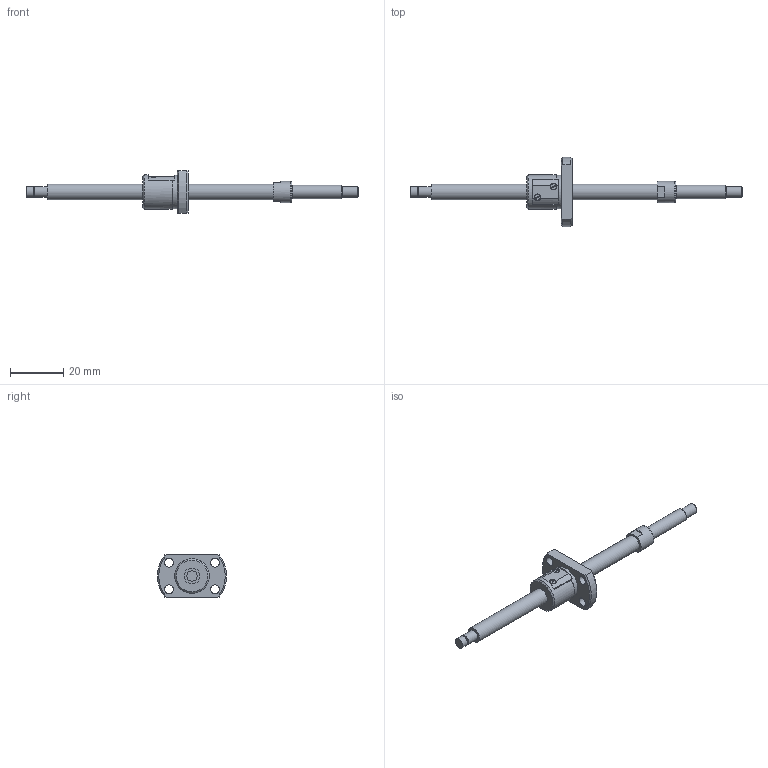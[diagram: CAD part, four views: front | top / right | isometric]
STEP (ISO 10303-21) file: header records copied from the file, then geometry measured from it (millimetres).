
FILE_DESCRIPTION(/* description */ ('STEP AP214'),/* implementation_level */ '2;1');
FILE_NAME(/* name */ 'PSRT0601-81R125C5B0X(B36)',/* time_stamp */ '2026-08-06T16:11:28+02:00',/* author */ ('License CC BY-ND 4.0'),/* organization */ ('CADENAS'),/* preprocessor_version */ 'ST-DEVELOPER v20',/* originating_system */ 'PARTsolutions',/* authorisation */ ' ');
FILE_SCHEMA (('AUTOMOTIVE_DESIGN {1 0 10303 214 3 1 1}'));
Length unit declared in the file: millimetre
Products named in the file (3): PSRT0601-81R125C5B0X(B36); PSRT0601B125_shaft; PSR0601_nut
Assembly tree (2 placements, depth 2):
  PSRT0601-81R125C5B0X(B36)
    PSRT0601B125_shaft
    PSR0601_nut
Bounding box: 125 x 26 x 16 mm (x, y, z)
Volume: 5860.4 mm3; surface area: 4372.8 mm2
Topology: 2 solids, 2 shells, 72 faces, 172 edges, 113 vertices
Faces by surface type: plane 35, cylinder 28, cone 8, torus 1
Full cylindrical faces by diameter (mm): 2.5 x2, 3.4 x4, 3.7 x1, 4 x3, 5 x1, 6 x2, 8 x1, 12.6 x1, 13 x1
Entity records: 2067 total; most frequent: CARTESIAN_POINT 365, DIRECTION 356, ORIENTED_EDGE 292, EDGE_CURVE 146, AXIS2_PLACEMENT_3D 145, EDGE_LOOP 112, FACE_BOUND 112, VERTEX_POINT 108
